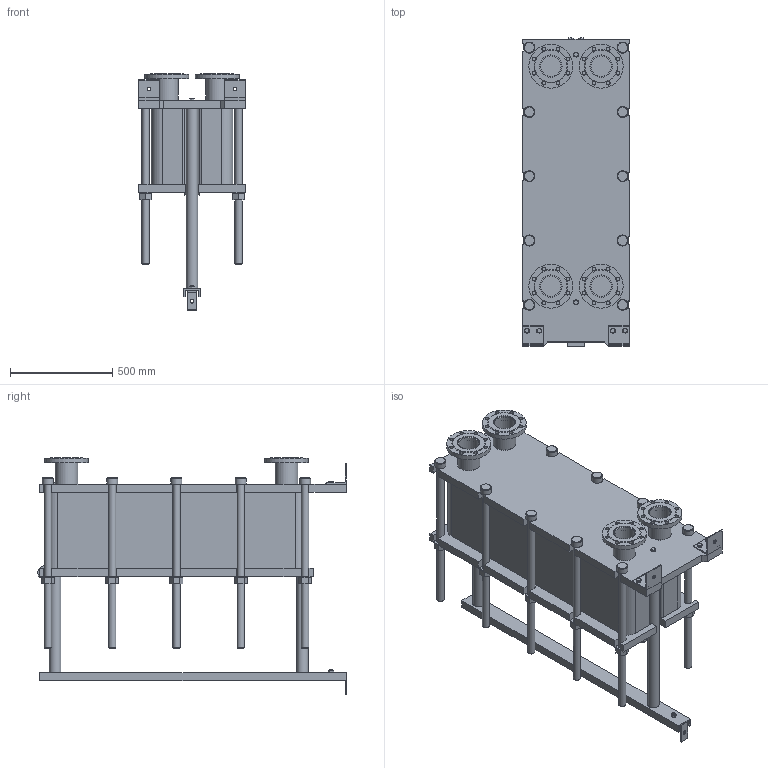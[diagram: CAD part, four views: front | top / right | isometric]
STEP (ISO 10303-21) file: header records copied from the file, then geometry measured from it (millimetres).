
FILE_DESCRIPTION(/* description */ (''),/* implementation_level */ '2;1');
FILE_NAME(/* name */ 'C:\Users\zhuro\Desktop\ENCO\TO\ЭН-04\ЭН-0,5-04-108-1.stp',/* time_stamp */ '2022-06-06T10:54:50+03:00',/* author */ ('zhuro'),/* organization */ (''),/* preprocessor_version */ 'ST-DEVELOPER v18.1',/* originating_system */ 'Autodesk Inventor 2022',/* authorisation */ '');
FILE_SCHEMA (('AUTOMOTIVE_DESIGN { 1 0 10303 214 3 1 1 }'));
Length unit declared in the file: millimetre
Products named in the file (1): ЭН-0,5-04-108-1
Bounding box: 520 x 1510 x 1159 mm (x, y, z)
Volume: 257845612.5 mm3; surface area: 8531182.7 mm2
Topology: 45 solids, 45 shells, 668 faces, 1611 edges, 1048 vertices
Faces by surface type: plane 457, cylinder 166, cone 39, torus 6
Full cylindrical faces by diameter (mm): 8 x4, 10 x2, 16 x8, 18 x35, 36 x25, 40 x2, 42 x1, 45 x4, 54 x10, 57 x2, 60 x10, 68 x2, 100 x4, 110 x8, 215 x4
Entity records: 23607 total; most frequent: CARTESIAN_POINT 7348, DIRECTION 3371, ORIENTED_EDGE 3142, EDGE_CURVE 1571, AXIS2_PLACEMENT_3D 1199, VERTEX_POINT 1044, LINE 973, VECTOR 973
